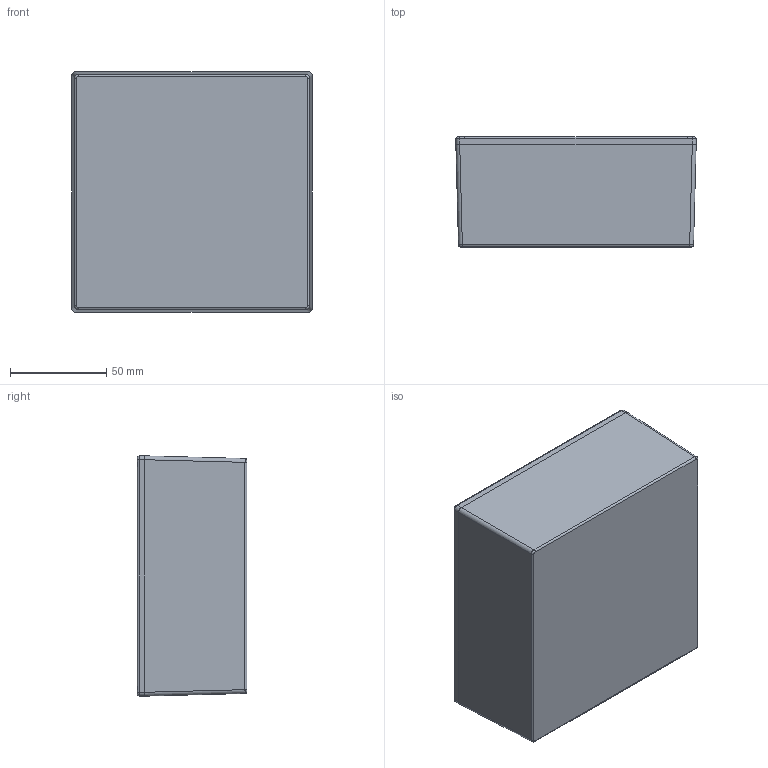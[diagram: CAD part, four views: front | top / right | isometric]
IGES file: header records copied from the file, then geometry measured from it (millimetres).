
Global section: file name: 1590KK.iam; native system: Autodesk Inventor 2014; preprocessor: unknown; author: mbeerman; date: 20140728.134728; units: millimetre
Bounding box: 124.8 x 57 x 124.8 mm (x, y, z)
Volume: 152715.2 mm3; surface area: 115427.6 mm2
Topology: 6 solids, 6 shells, 460 faces, 1205 edges, 779 vertices
Faces by surface type: plane 256, bspline 88, revolution 76, cone 20, cylinder 20
Full cylindrical faces by diameter (mm): 3.378 x4
